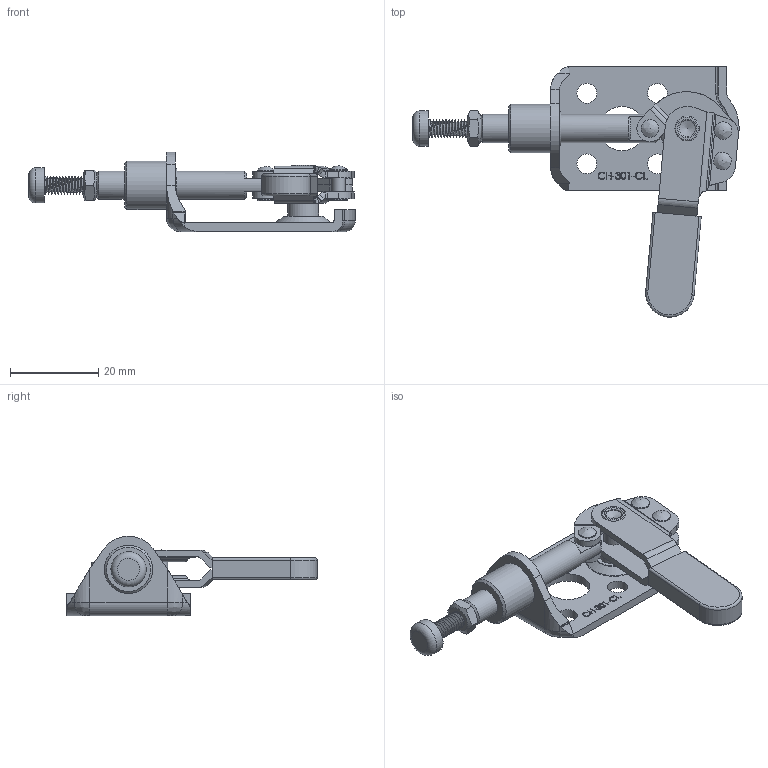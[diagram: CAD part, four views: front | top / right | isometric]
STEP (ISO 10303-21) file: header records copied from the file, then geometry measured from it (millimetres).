
FILE_DESCRIPTION(/* description */ ('STEP AP203'),/* implementation_level */ '2;1');
FILE_NAME(/* name */ 'D:\Vault_2016\Projekty\STRONA\Push-pull clamp\CH-301-CL\CH-301-CL_OTWARTY.stp',/* time_stamp */ '2019-01-10T12:06:49+01:00',/* author */ ('user'),/* organization */ ('Î¢ÈíÖÐ¹ú'),/* preprocessor_version */ 'ST-DEVELOPER v17.2',/* originating_system */ 'Autodesk Inventor 2019',/* authorisation */ '');
FILE_SCHEMA (('AUTOMOTIVE_DESIGN { 1 0 10303 214 3 1 1 }'));
Length unit declared in the file: millimetre
Products named in the file (13): CH-301-CL_OTWARTY; 042007; Ïú¶¤_Ä¬ÈÏ; ÊÖ±ú_Ä¬ÈÏ; Áã¼þ3_Ä¬ÈÏ; 042007-02; ½ºÌ×; ¶¥Öá_Ä¬ÈÏ; Á¬¸Ë2_Ä¬ÈÏ; ¸ôÌ×_Ä¬ÈÏ; ÊÖ±ú2_Ä¬ÈÏ; 6; Áã¼þ1_Ä¬ÈÏ
Assembly tree (14 placements, depth 2):
  CH-301-CL_OTWARTY
    042007
    Ïú¶¤_Ä¬ÈÏ
    ÊÖ±ú_Ä¬ÈÏ
    Áã¼þ3_Ä¬ÈÏ
    6  x3
    042007-02
    ½ºÌ×
    ¶¥Öá_Ä¬ÈÏ
    Á¬¸Ë2_Ä¬ÈÏ
    ¸ôÌ×_Ä¬ÈÏ
    ÊÖ±ú2_Ä¬ÈÏ
    Áã¼þ1_Ä¬ÈÏ
Bounding box: 74.03 x 56.78 x 17.98 mm (x, y, z)
Volume: 7779.5 mm3; surface area: 10783.4 mm2
Topology: 14 solids, 14 shells, 419 faces, 1145 edges, 774 vertices
Faces by surface type: plane 183, cylinder 117, bspline 65, torus 32, cone 22
Full cylindrical faces by diameter (mm): 2.226 x3, 3 x11, 3.2 x2, 3.3 x1, 3.7 x1, 4 x6, 4.5 x4, 4.7 x1, 4.8 x4, 5.553 x1, 6.4 x2, 7 x1, 7.7 x1, 8 x2, 10.1 x1, 11 x1
Entity records: 22787 total; most frequent: CARTESIAN_POINT 12445, ORIENTED_EDGE 2138, DIRECTION 1964, EDGE_CURVE 1069, VERTEX_POINT 722, AXIS2_PLACEMENT_3D 713, LINE 538, VECTOR 538
